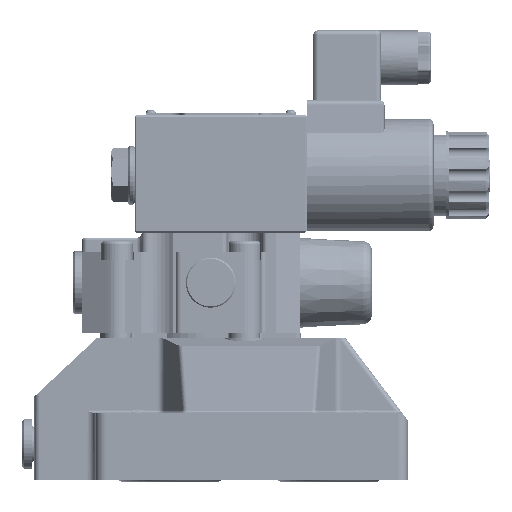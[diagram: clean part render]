
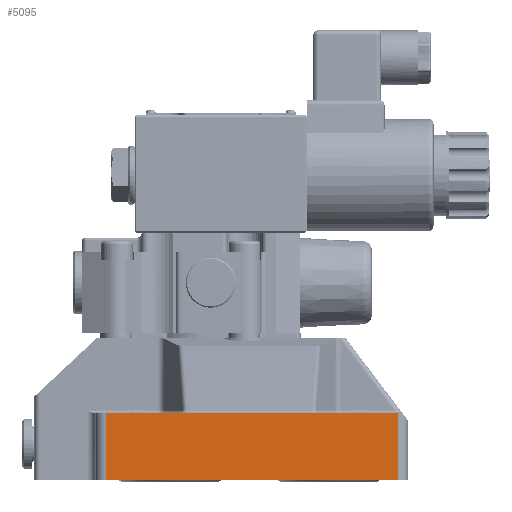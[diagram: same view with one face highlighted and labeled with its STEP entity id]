
A CAD part, front view. The second image highlights one B-rep face of the part: STEP entity #5095.
In plain terms, the highlighted planar face has unit normal (0, -1, 0).
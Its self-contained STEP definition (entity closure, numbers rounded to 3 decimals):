
#2961=PLANE('',#27123);
#5095=ADVANCED_FACE('',(#6642),#2961,.T.);
#6642=FACE_OUTER_BOUND('',#8378,.T.);
#8378=EDGE_LOOP('',(#15820,#15821,#15822,#15823));
#15820=ORIENTED_EDGE('',*,*,#21619,.T.);
#15821=ORIENTED_EDGE('',*,*,#21656,.T.);
#15822=ORIENTED_EDGE('',*,*,#21418,.F.);
#15823=ORIENTED_EDGE('',*,*,#21657,.T.);
#18376=VERTEX_POINT('',#169326);
#18377=VERTEX_POINT('',#169327);
#18560=VERTEX_POINT('',#170122);
#18561=VERTEX_POINT('',#170124);
#21418=EDGE_CURVE('',#18376,#18377,#23313,.T.);
#21619=EDGE_CURVE('',#18561,#18560,#23412,.T.);
#21656=EDGE_CURVE('',#18560,#18377,#23425,.T.);
#21657=EDGE_CURVE('',#18376,#18561,#23426,.T.);
#23313=LINE('',#169325,#24933);
#23412=LINE('',#170123,#25035);
#23425=LINE('',#170197,#25048);
#23426=LINE('',#170198,#25049);
#24933=VECTOR('',#32606,1.);
#25035=VECTOR('',#32882,1.);
#25048=VECTOR('',#32959,1.);
#25049=VECTOR('',#32960,1.);
#27123=AXIS2_PLACEMENT_3D('',#170199,#32961,#32962);
#32606=DIRECTION('',(1.,0.,0.));
#32882=DIRECTION('',(1.,0.,0.));
#32959=DIRECTION('',(0.,0.,1.));
#32960=DIRECTION('',(0.,0.,-1.));
#32961=DIRECTION('',(0.,-1.,0.));
#32962=DIRECTION('',(1.,0.,0.));
#169325=CARTESIAN_POINT('',(-615.97,-114.432,58.));
#169326=CARTESIAN_POINT('',(-736.77,-114.432,58.));
#169327=CARTESIAN_POINT('',(-619.97,-114.432,58.));
#170122=CARTESIAN_POINT('',(-619.97,-114.432,31.));
#170123=CARTESIAN_POINT('',(-615.97,-114.432,31.));
#170124=CARTESIAN_POINT('',(-736.77,-114.432,31.));
#170197=CARTESIAN_POINT('',(-619.97,-114.432,55.025));
#170198=CARTESIAN_POINT('',(-736.77,-114.432,31.));
#170199=CARTESIAN_POINT('',(-615.97,-114.432,31.));
